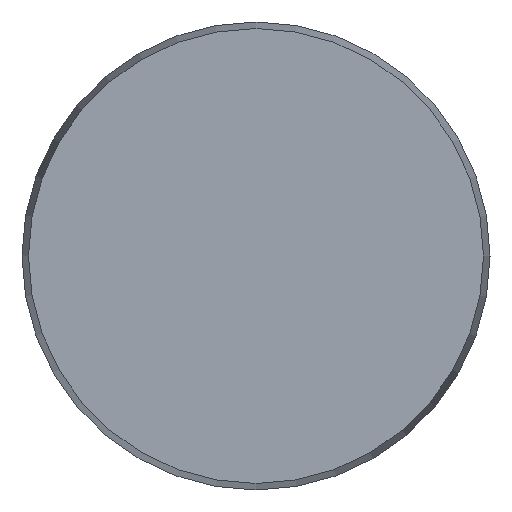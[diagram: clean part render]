
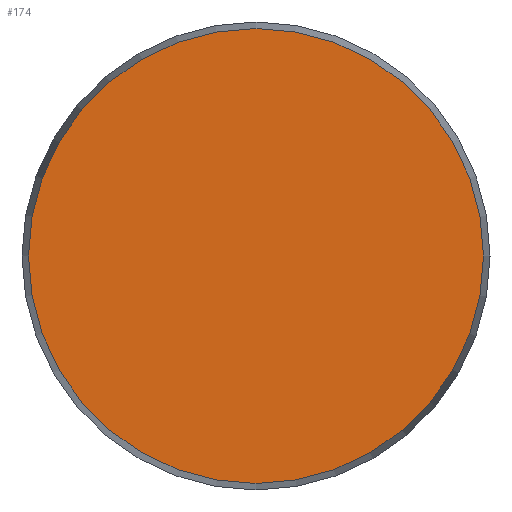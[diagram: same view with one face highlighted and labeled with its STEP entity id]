
A CAD part, left-side view. The second image highlights one B-rep face of the part: STEP entity #174.
In plain terms, the highlighted planar face has unit normal (-1, 0, 0).
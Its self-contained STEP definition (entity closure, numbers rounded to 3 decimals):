
#16=PLANE('',#214);
#27=FACE_OUTER_BOUND('',#38,.T.);
#38=EDGE_LOOP('',(#132));
#66=CIRCLE('',#215,12.15);
#81=VERTEX_POINT('',#316);
#99=EDGE_CURVE('',#81,#81,#66,.T.);
#132=ORIENTED_EDGE('',*,*,#99,.F.);
#174=ADVANCED_FACE('',(#27),#16,.T.);
#214=AXIS2_PLACEMENT_3D('',#315,#260,#261);
#215=AXIS2_PLACEMENT_3D('',#317,#262,#263);
#260=DIRECTION('center_axis',(-1.,0.,0.));
#261=DIRECTION('ref_axis',(0.,0.,1.));
#262=DIRECTION('center_axis',(1.,0.,0.));
#263=DIRECTION('ref_axis',(0.,0.,-1.));
#315=CARTESIAN_POINT('Origin',(0.,12.15,0.));
#316=CARTESIAN_POINT('',(0.,-12.15,0.));
#317=CARTESIAN_POINT('Origin',(0.,0.,0.));
